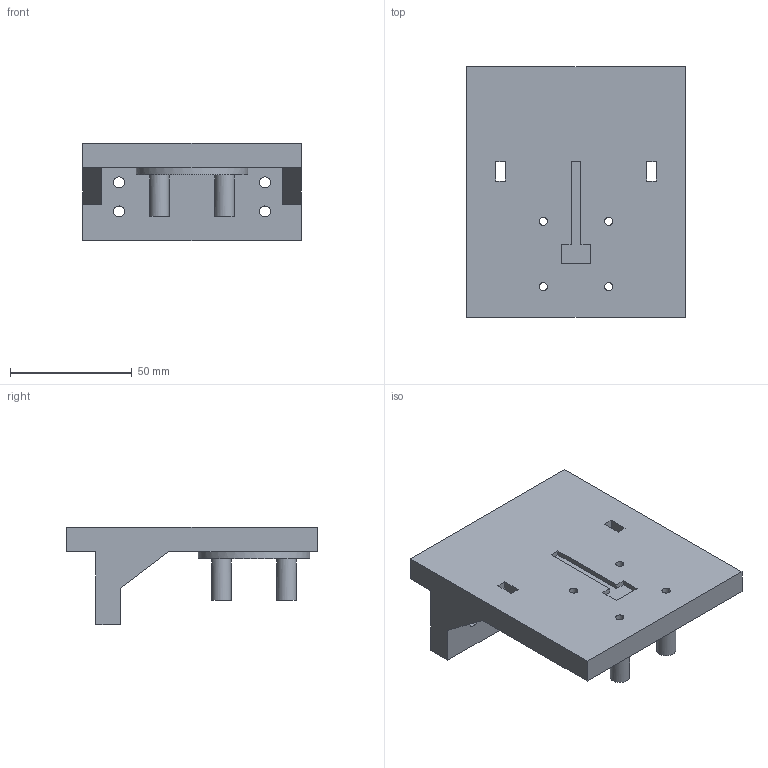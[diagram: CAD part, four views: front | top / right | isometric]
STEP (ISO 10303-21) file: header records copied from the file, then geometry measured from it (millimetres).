
FILE_DESCRIPTION(('Open CASCADE Model'),'2;1');
FILE_NAME('Open CASCADE Shape Model','2026-11-11T10:48:34',('Author'),( 'Open CASCADE'),'Open CASCADE STEP processor 7.9','Open CASCADE 7.9' ,'Unknown');
FILE_SCHEMA(('AUTOMOTIVE_DESIGN { 1 0 10303 214 1 1 1 1 }'));
Length unit declared in the file: millimetre
Products named in the file (1): Open CASCADE STEP translator 7.9 3
Bounding box: 90 x 103 x 40 mm (x, y, z)
Volume: 125656.6 mm3; surface area: 33508.3 mm2
Topology: 1 solids, 1 shells, 51 faces, 134 edges, 88 vertices
Faces by surface type: plane 37, cylinder 14
Full cylindrical faces by diameter (mm): 3.4 x4, 4.5 x4, 8 x4, 26 x1, 46 x1
Entity records: 3335 total; most frequent: CARTESIAN_POINT 600, DIRECTION 493, LINE 282, VECTOR 282, ORIENTED_EDGE 268, PCURVE 268, DEFINITIONAL_REPRESENTATION 268, EDGE_CURVE 134
